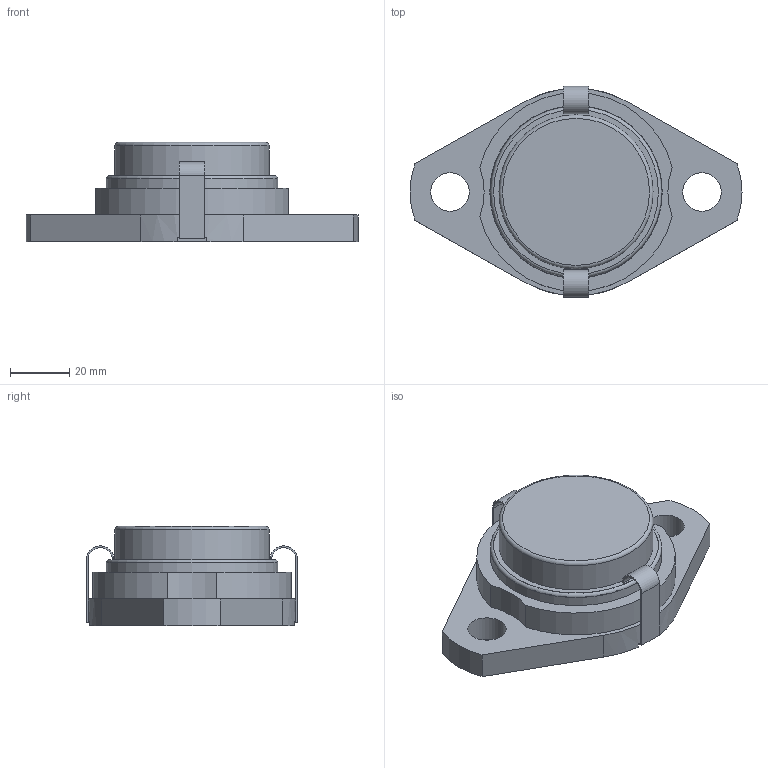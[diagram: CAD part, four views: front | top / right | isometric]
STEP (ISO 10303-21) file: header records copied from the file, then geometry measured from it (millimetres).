
FILE_DESCRIPTION((''),'2;1');
FILE_NAME('\\Ts-tgl068\J-Cad-D-BASE\00.3DCADデータ作成フォルダ\11.エコシリーズ\MUSFL000\MUSFL006E.stp','2014-11-12T09:51:41',('btec_1106_2'),(''),'Autodesk Inventor 2012','Autodesk Inventor 2012','');
FILE_SCHEMA(('AUTOMOTIVE_DESIGN { 1 0 10303 214 1 1 1 1 }'));
Length unit declared in the file: millimetre
Products named in the file (5): MUSFL006C(E); SFL006; U006; 06-7CPE; 6CLL
Assembly tree (5 placements, depth 2):
  MUSFL006C(E)
    SFL006
    U006
    06-7CPE
    6CLL  x2
Bounding box: 112 x 71.2 x 33.5 mm (x, y, z)
Volume: 63610.3 mm3; surface area: 36549.5 mm2
Topology: 5 solids, 5 shells, 108 faces, 259 edges, 169 vertices
Faces by surface type: plane 60, cylinder 38, cone 4, torus 4, sphere 2
Full cylindrical faces by diameter (mm): 3.5 x1, 4.134 x1, 13 x2, 30 x1, 38 x1, 42 x1, 51.4 x1, 52 x1, 57.2 x1, 57.8 x1, 58.2 x1
Entity records: 2964 total; most frequent: CARTESIAN_POINT 592, DIRECTION 498, ORIENTED_EDGE 408, EDGE_CURVE 204, AXIS2_PLACEMENT_3D 192, VERTEX_POINT 146, EDGE_LOOP 140, VECTOR 114
